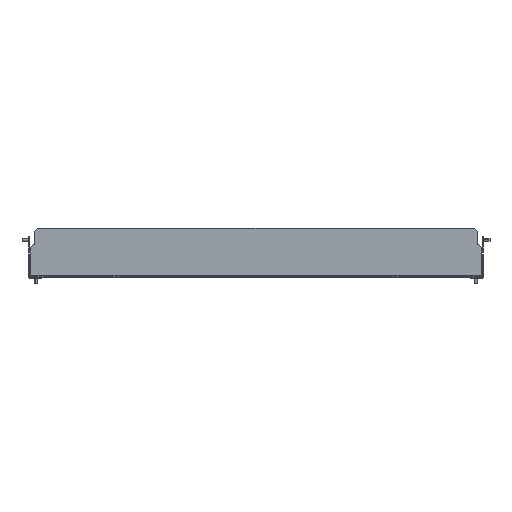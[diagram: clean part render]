
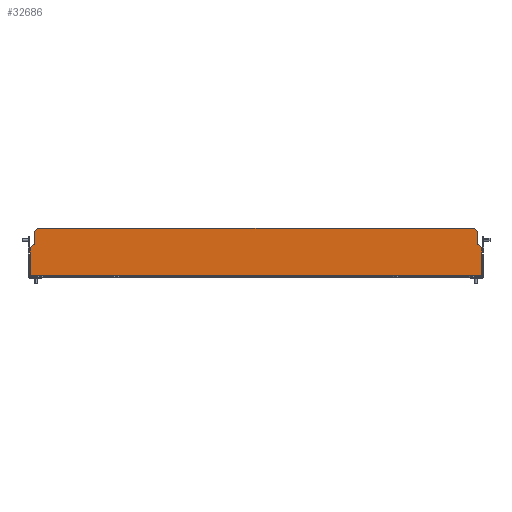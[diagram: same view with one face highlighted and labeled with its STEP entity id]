
A CAD part, front view. The second image highlights one B-rep face of the part: STEP entity #32686.
In plain terms, the highlighted planar face has unit normal (0, -1, 0).
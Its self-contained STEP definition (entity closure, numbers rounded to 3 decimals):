
#31551=CARTESIAN_POINT(' ',(347.5,-1.5,0.6));
#31552=VERTEX_POINT(' ',#31551);
#31566=CARTESIAN_POINT(' ',(347.5,-1.5,0.6));
#31571=DIRECTION(' ',(-1.,0.,0.));
#31576=VECTOR(' ',#31571,1.);
#31581=LINE('',#31566,#31576);
#31586=CARTESIAN_POINT(' ',(-347.5,-1.5,0.6));
#31587=VERTEX_POINT(' ',#31586);
#31591=EDGE_CURVE(' ',#31552,#31587,#31581,.T.);
#31731=CARTESIAN_POINT(' ',(347.5,-1.5,43.5));
#31732=VERTEX_POINT(' ',#31731);
#31746=CARTESIAN_POINT(' ',(347.5,-1.5,43.5));
#31751=DIRECTION(' ',(0.,0.,-1.));
#31756=VECTOR(' ',#31751,1.);
#31761=LINE('',#31746,#31756);
#31766=EDGE_CURVE(' ',#31732,#31552,#31761,.T.);
#31841=CARTESIAN_POINT(' ',(-347.5,-1.5,0.6));
#31846=DIRECTION(' ',(0.,0.,1.));
#31851=VECTOR(' ',#31846,1.);
#31856=LINE('',#31841,#31851);
#31861=CARTESIAN_POINT(' ',(-347.5,-1.5,43.5));
#31862=VERTEX_POINT(' ',#31861);
#31866=EDGE_CURVE(' ',#31587,#31862,#31856,.T.);
#32326=DIRECTION(' ',(0.,-1.,0.));
#32331=CARTESIAN_POINT(' ',(-347.5,-1.5,73.5));
#32336=DIRECTION(' ',(0.,0.,-1.));
#32341=AXIS2_PLACEMENT_3D(' ',#32331,#32326,#32336);
#32346=PLANE('NONE',#32341);
#32351=ORIENTED_EDGE(' ',*,*,#31766,.F.);
#32356=CARTESIAN_POINT(' ',(347.5,-1.5,43.5));
#32361=DIRECTION(' ',(-0.707,0.,0.707));
#32366=VECTOR(' ',#32361,1.);
#32371=LINE('',#32356,#32366);
#32376=CARTESIAN_POINT(' ',(342.5,-1.5,48.5));
#32377=VERTEX_POINT(' ',#32376);
#32381=EDGE_CURVE(' ',#31732,#32377,#32371,.T.);
#32386=ORIENTED_EDGE(' ',*,*,#32381,.T.);
#32391=CARTESIAN_POINT(' ',(340.5,-1.5,48.5));
#32396=DIRECTION(' ',(1.,0.,0.));
#32401=VECTOR(' ',#32396,1.);
#32406=LINE('',#32391,#32401);
#32411=CARTESIAN_POINT(' ',(340.5,-1.5,48.5));
#32412=VERTEX_POINT(' ',#32411);
#32416=EDGE_CURVE(' ',#32412,#32377,#32406,.T.);
#32421=ORIENTED_EDGE(' ',*,*,#32416,.F.);
#32426=CARTESIAN_POINT(' ',(340.5,-1.5,48.5));
#32431=DIRECTION(' ',(0.,0.,1.));
#32436=VECTOR(' ',#32431,1.);
#32441=LINE('',#32426,#32436);
#32446=CARTESIAN_POINT(' ',(340.5,-1.5,68.5));
#32447=VERTEX_POINT(' ',#32446);
#32451=EDGE_CURVE(' ',#32412,#32447,#32441,.T.);
#32456=ORIENTED_EDGE(' ',*,*,#32451,.T.);
#32461=CARTESIAN_POINT(' ',(340.5,-1.5,68.5));
#32466=DIRECTION(' ',(-0.707,0.,0.707));
#32471=VECTOR(' ',#32466,1.);
#32476=LINE('',#32461,#32471);
#32481=CARTESIAN_POINT(' ',(335.5,-1.5,73.5));
#32482=VERTEX_POINT(' ',#32481);
#32486=EDGE_CURVE(' ',#32447,#32482,#32476,.T.);
#32491=ORIENTED_EDGE(' ',*,*,#32486,.T.);
#32496=CARTESIAN_POINT(' ',(335.5,-1.5,73.5));
#32501=DIRECTION(' ',(-1.,0.,0.));
#32506=VECTOR(' ',#32501,1.);
#32511=LINE('',#32496,#32506);
#32516=CARTESIAN_POINT(' ',(-335.5,-1.5,73.5));
#32517=VERTEX_POINT(' ',#32516);
#32521=EDGE_CURVE(' ',#32482,#32517,#32511,.T.);
#32526=ORIENTED_EDGE(' ',*,*,#32521,.T.);
#32531=CARTESIAN_POINT(' ',(-335.5,-1.5,73.5));
#32536=DIRECTION(' ',(-0.707,0.,-0.707));
#32541=VECTOR(' ',#32536,1.);
#32546=LINE('',#32531,#32541);
#32551=CARTESIAN_POINT(' ',(-340.5,-1.5,68.5));
#32552=VERTEX_POINT(' ',#32551);
#32556=EDGE_CURVE(' ',#32517,#32552,#32546,.T.);
#32561=ORIENTED_EDGE(' ',*,*,#32556,.T.);
#32566=CARTESIAN_POINT(' ',(-340.5,-1.5,48.5));
#32571=DIRECTION(' ',(0.,0.,1.));
#32576=VECTOR(' ',#32571,1.);
#32581=LINE('',#32566,#32576);
#32586=CARTESIAN_POINT(' ',(-340.5,-1.5,48.5));
#32587=VERTEX_POINT(' ',#32586);
#32591=EDGE_CURVE(' ',#32587,#32552,#32581,.T.);
#32596=ORIENTED_EDGE(' ',*,*,#32591,.F.);
#32601=CARTESIAN_POINT(' ',(-340.5,-1.5,48.5));
#32606=DIRECTION(' ',(-1.,0.,0.));
#32611=VECTOR(' ',#32606,1.);
#32616=LINE('',#32601,#32611);
#32621=CARTESIAN_POINT(' ',(-342.5,-1.5,48.5));
#32622=VERTEX_POINT(' ',#32621);
#32626=EDGE_CURVE(' ',#32587,#32622,#32616,.T.);
#32631=ORIENTED_EDGE(' ',*,*,#32626,.T.);
#32636=CARTESIAN_POINT(' ',(-342.5,-1.5,48.5));
#32641=DIRECTION(' ',(-0.707,0.,-0.707));
#32646=VECTOR(' ',#32641,1.);
#32651=LINE('',#32636,#32646);
#32656=EDGE_CURVE(' ',#32622,#31862,#32651,.T.);
#32661=ORIENTED_EDGE(' ',*,*,#32656,.T.);
#32666=ORIENTED_EDGE(' ',*,*,#31866,.F.);
#32671=ORIENTED_EDGE(' ',*,*,#31591,.F.);
#32676=EDGE_LOOP(' ',(#32351,#32386,#32421,#32456,#32491,#32526,#32561,#32596,#32631,#32661,#32666,#32671));
#32681=FACE_OUTER_BOUND(' ',#32676,.T.);
#32686=ADVANCED_FACE('NONE',(#32681),#32346,.T.);
